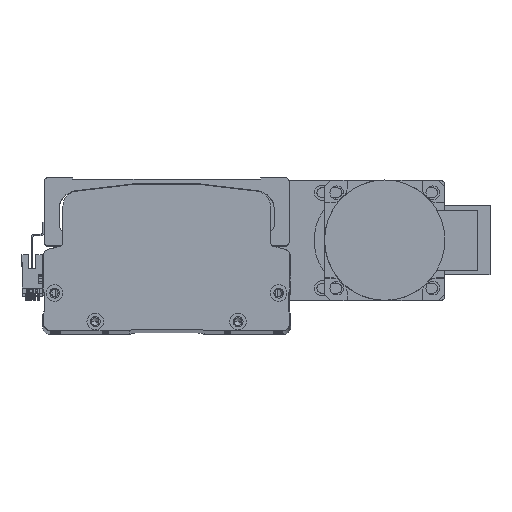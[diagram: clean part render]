
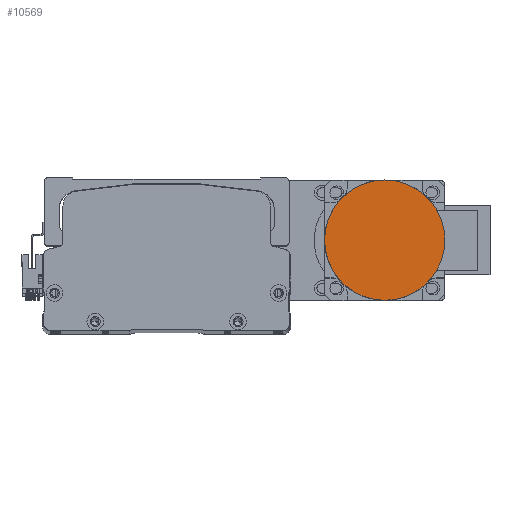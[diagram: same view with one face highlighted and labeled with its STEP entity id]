
A CAD part, top view. The second image highlights one B-rep face of the part: STEP entity #10569.
In plain terms, the highlighted planar face has unit normal (0, 0, 1) as drawn and (0, -1, 0) by its records, which use the part's own axes.
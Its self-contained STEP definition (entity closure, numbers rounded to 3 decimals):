
#529 = EDGE_CURVE ( 'NONE', #60379, #11824, #25573, .T. ) ;
#4205 = CARTESIAN_POINT ( 'NONE',  ( 0., -27., 0. ) ) ;
#9125 = DIRECTION ( 'NONE',  ( 0., 0., -1. ) ) ;
#10569 = ADVANCED_FACE ( 'NONE', ( #48281 ), #49085, .F. ) ;
#11824 = VERTEX_POINT ( 'NONE', #37021 ) ;
#14533 = CARTESIAN_POINT ( 'NONE',  ( 0., -27., 0. ) ) ;
#14764 = CARTESIAN_POINT ( 'NONE',  ( 0., -27., 0. ) ) ;
#19482 = DIRECTION ( 'NONE',  ( 0., 1., 0. ) ) ;
#19725 = DIRECTION ( 'NONE',  ( 0., 0., -1. ) ) ;
#23519 = AXIS2_PLACEMENT_3D ( 'NONE', #14764, #49314, #19725 ) ;
#25573 = CIRCLE ( 'NONE', #47814, 40. ) ;
#30680 = ORIENTED_EDGE ( 'NONE', *, *, #529, .T. ) ;
#37021 = CARTESIAN_POINT ( 'NONE',  ( 0., -27., 40. ) ) ;
#38667 = DIRECTION ( 'NONE',  ( 0., -1., 0. ) ) ;
#41243 = EDGE_CURVE ( 'NONE', #11824, #60379, #57175, .T. ) ;
#47814 = AXIS2_PLACEMENT_3D ( 'NONE', #4205, #38667, #9125 ) ;
#48281 = FACE_OUTER_BOUND ( 'NONE', #61573, .T. ) ;
#49085 = PLANE ( 'NONE',  #53069 ) ;
#49314 = DIRECTION ( 'NONE',  ( 0., -1., 0. ) ) ;
#53069 = AXIS2_PLACEMENT_3D ( 'NONE', #14533, #19482, #54027 ) ;
#54027 = DIRECTION ( 'NONE',  ( 0., 0., 1. ) ) ;
#55779 = CARTESIAN_POINT ( 'NONE',  ( 0., -27., -40. ) ) ;
#57175 = CIRCLE ( 'NONE', #23519, 40. ) ;
#60379 = VERTEX_POINT ( 'NONE', #55779 ) ;
#61382 = ORIENTED_EDGE ( 'NONE', *, *, #41243, .T. ) ;
#61573 = EDGE_LOOP ( 'NONE', ( #30680, #61382 ) ) ;
